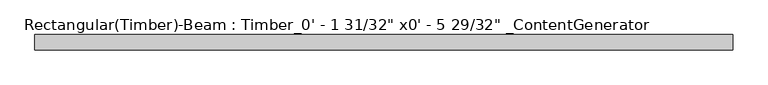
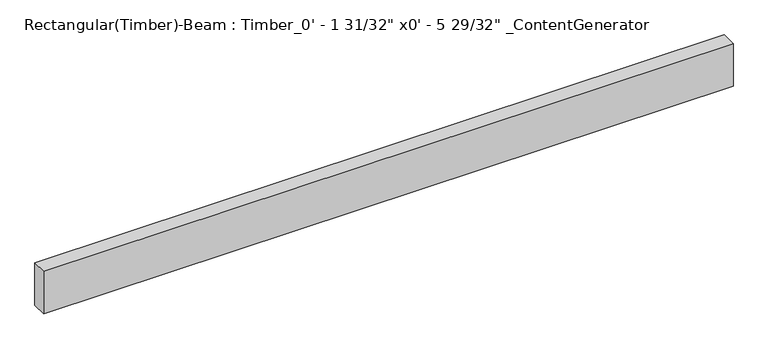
"""IFC4 building model written with IfcOpenShell, lengths in millimetres: beam geometry."""

from ifc_helpers import new_model, si_unit, frame, origin, place, context, project, spatial, polyline, outline, extrude, source, transform, mapped, element, save


def beam_8c6c5f68(model_context):
    return source(origin(), model_context, "Body", "SweptSolid", [
        extrude(outline(polyline([(1168.4, 25.4), (1168.4, -25.4), (-1168.4, -25.4), (-1168.4, 25.4), (1168.4, 25.4)])), frame((0.0, 0.0, -76.2), z_axis=(0.0, 0.0, 1.0), x_axis=(1.0, 0.0, 0.0)), (0.0, 0.0, 1.0), 152.4),
    ])


if __name__ == "__main__":
    model = new_model("IFC4")
    model_context = context("Model", 3, world=origin())
    ifc_project = project(units=[si_unit("LENGTHUNIT", "METRE", prefix="MILLI")], contexts=[model_context])
    site = spatial("IfcSite", under=ifc_project)
    building = spatial("IfcBuilding", under=site)
    placement = place(None, origin())
    beam_shape = beam_8c6c5f68(model_context)
    element("IfcBeam", 1, ObjectType="Rectangular(Timber)-Beam : Timber_0' - 1 31/32\" x0' - 5 29/32\" _ContentGenerator", at=placement, inside=building, context=model_context, shape_type="MappedRepresentation", body=[
        mapped(beam_shape, transform((0.0, 0.0, 0.0), x_axis=(1.0, 0.0, 0.0), y_axis=(0.0, 1.0, 0.0), z_axis=(0.0, 0.0, 1.0))),
    ])
    save(model, "model.ifc")
